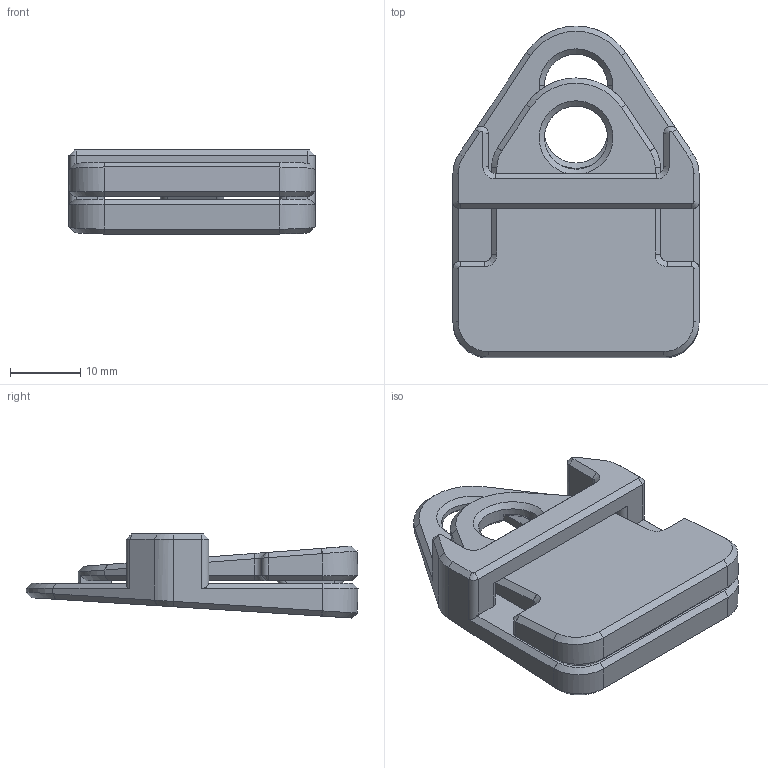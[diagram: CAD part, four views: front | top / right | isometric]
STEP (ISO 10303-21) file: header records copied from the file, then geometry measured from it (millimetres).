
FILE_DESCRIPTION(/* description */ (''),/* implementation_level */ '2;1');
FILE_NAME(/* name */ 'Carpet Corner Clip.step',/* time_stamp */ '2026-08-14T15:52:26+02:00',/* author */ (''),/* organization */ (''),/* preprocessor_version */ 'ST-DEVELOPER v20.1',/* originating_system */ 'Autodesk Translation Framework v15.8.0.0',/* authorisation */ '');
FILE_SCHEMA (('AUTOMOTIVE_DESIGN { 1 0 10303 214 3 1 1 }'));
Length unit declared in the file: millimetre
Products named in the file (1): 2026-08-11-08-09-45-922
Bounding box: 35 x 47.23 x 11.95 mm (x, y, z)
Volume: 9116 mm3; surface area: 6176.6 mm2
Topology: 2 solids, 2 shells, 183 faces, 464 edges, 284 vertices
Faces by surface type: plane 79, bspline 49, cylinder 33, cone 22
Full cylindrical faces by diameter (mm): 9 x1
Entity records: 6282 total; most frequent: CARTESIAN_POINT 2160, ORIENTED_EDGE 928, DIRECTION 702, EDGE_CURVE 464, VERTEX_POINT 284, LINE 282, VECTOR 282, AXIS2_PLACEMENT_3D 210
